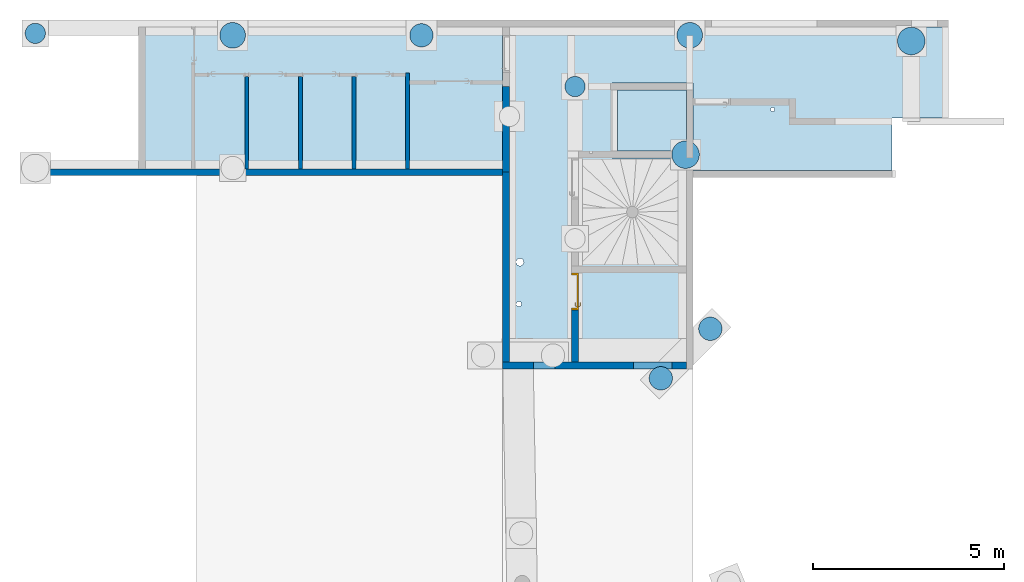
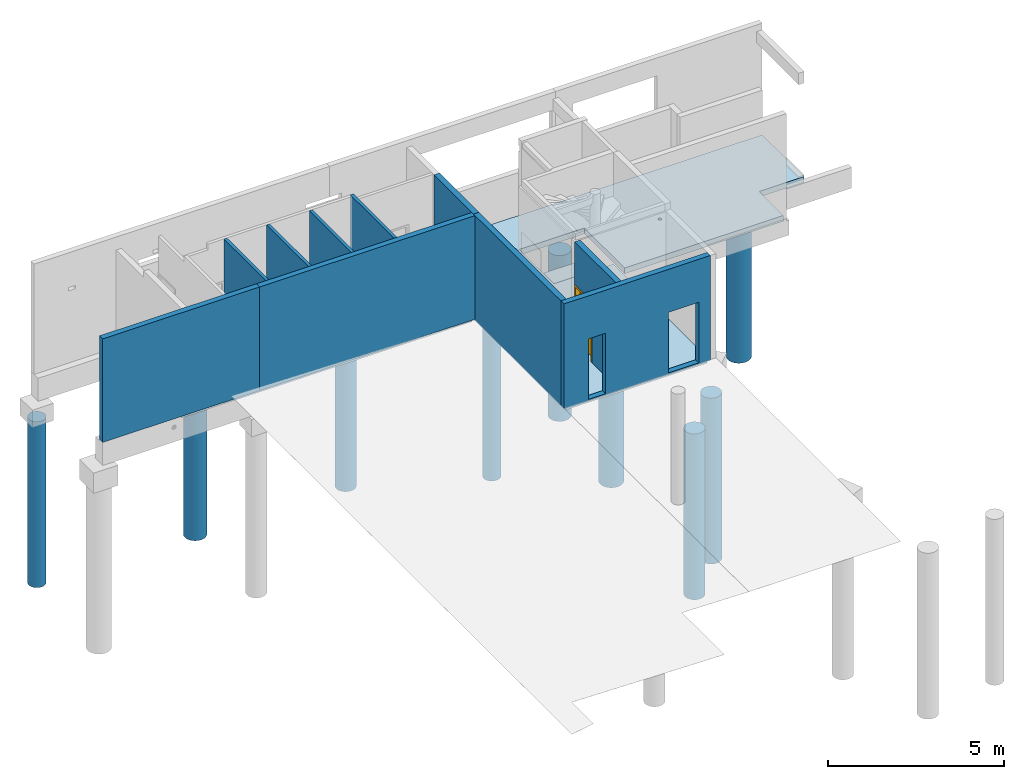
# One storey, part 2 of 14: 12 slabs, 10 walls, 1 door, 6 openings.
"""IFC2X3 building model written with IfcOpenShell, lengths in centimetres."""

from ifc_helpers import new_model, entity, si_unit, converted_unit, derived_unit, direction, frame, frame_2d, origin, origin_2d_with_axis, place, context, subcontext, project, spatial, polyline, rectangle, circle, outline, extrude, faceted_brep, source, transform, mapped, material, material_list, layer, layer_set, layer_usage, type_object, type_shapes, element, fill, save


model = new_model("IFC2X3")

# Units and contexts
model_context = context("Model", 3, precision=0.001, world=origin(), true_north=direction((6.12303176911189e-17, 1.0)))
body_context = subcontext(model_context, "Body", "Model", "MODEL_VIEW")
ifc_project = project(units=[si_unit("LENGTHUNIT", "METRE", prefix="CENTI"), si_unit("AREAUNIT", "SQUARE_METRE"), si_unit("VOLUMEUNIT", "CUBIC_METRE"), converted_unit("PLANEANGLEUNIT", "DEGREE", entity("IfcRatioMeasure", 0.0174532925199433), si_unit("PLANEANGLEUNIT", "RADIAN"), dimensions=[0, 0, 0, 0, 0, 0, 0]), si_unit("MASSUNIT", "GRAM", prefix="KILO"), derived_unit("MASSDENSITYUNIT", [(si_unit("MASSUNIT", "GRAM", prefix="KILO"), 1), (si_unit("LENGTHUNIT", "METRE"), -3)]), si_unit("TIMEUNIT", "SECOND"), si_unit("FREQUENCYUNIT", "HERTZ"), si_unit("THERMODYNAMICTEMPERATUREUNIT", "DEGREE_CELSIUS"), derived_unit("THERMALTRANSMITTANCEUNIT", [(si_unit("MASSUNIT", "GRAM", prefix="KILO"), 1), (si_unit("THERMODYNAMICTEMPERATUREUNIT", "KELVIN"), -1), (si_unit("TIMEUNIT", "SECOND"), -3)]), derived_unit("VOLUMETRICFLOWRATEUNIT", [(si_unit("LENGTHUNIT", "METRE"), 3), (si_unit("TIMEUNIT", "SECOND"), -1)]), si_unit("ELECTRICCURRENTUNIT", "AMPERE"), si_unit("ELECTRICVOLTAGEUNIT", "VOLT"), si_unit("POWERUNIT", "WATT"), si_unit("FORCEUNIT", "NEWTON"), si_unit("ILLUMINANCEUNIT", "LUX"), si_unit("LUMINOUSFLUXUNIT", "LUMEN"), si_unit("LUMINOUSINTENSITYUNIT", "CANDELA"), derived_unit("USERDEFINED", [(si_unit("MASSUNIT", "GRAM", prefix="KILO"), -1), (si_unit("LENGTHUNIT", "METRE"), -2), (si_unit("TIMEUNIT", "SECOND"), 3), (si_unit("LUMINOUSFLUXUNIT", "LUMEN"), 1)]), derived_unit("LINEARVELOCITYUNIT", [(si_unit("LENGTHUNIT", "METRE"), 1), (si_unit("TIMEUNIT", "SECOND"), -1)]), si_unit("PRESSUREUNIT", "PASCAL"), derived_unit("USERDEFINED", [(si_unit("LENGTHUNIT", "METRE"), -2), (si_unit("MASSUNIT", "GRAM", prefix="KILO"), 1), (si_unit("TIMEUNIT", "SECOND"), -2)])], contexts=[model_context])

# Site, building, storey
site_placement = place(None, origin())
site = spatial("IfcSite", under=ifc_project, at=site_placement, Name="Default", CompositionType="ELEMENT")
building_placement = place(site_placement, origin())
building = spatial("IfcBuilding", under=site, at=building_placement, Name="CAGE 03", CompositionType="ELEMENT")
storey_placement = place(building_placement, frame((0.0, 0.0, -42.0)))
storey = spatial("IfcBuildingStorey", under=building, at=storey_placement, Name="+3.58", CompositionType="ELEMENT", Elevation=-42.0000000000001)

# Slabs
ifc_material_1 = material(Name="Béton, C25/30")
ifc_layer_1 = layer(ifc_material_1, 20.0)
ifc_layer_set_1 = layer_set([ifc_layer_1], Name="Sol:Dalle Béton - 20 cm")
ifc_layer_usage_1 = layer_usage(ifc_layer_set_1, "AXIS3", "POSITIVE", 0.0)
slab_1_placement = place(storey_placement, origin())
element("IfcSlab", 1, at=slab_1_placement, inside=storey, material=ifc_layer_usage_1, Name="Sol:Dalle Béton - 20 cm", ObjectType="Sol:Dalle Béton - 20 cm", PredefinedType="FLOOR", context=body_context, shape_type="SweptSolid", body=[
    extrude(rectangle(XDim=371.000000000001, YDim=952.000000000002, at=origin_2d_with_axis()), frame((9534.36582014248, 5090.16066607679, 0.0), z_axis=(0.0, 0.0, -1.0), x_axis=(0.0, 1.0, 0.0)), (0.0, 0.0, 1.0), 20.0),
])
ifc_material_2 = material(Name="B25")
slab_2_placement = place(storey_placement, origin())
element("IfcSlab", 2, at=slab_2_placement, inside=storey, material=ifc_material_2, Name="Pieux:Ø46/67", ObjectType="Pieux:Ø46/67", PredefinedType="BASESLAB", context=body_context, shape_type="SweptSolid", body=[
    extrude(circle(Radius=33.5, at=origin_2d_with_axis()), frame((9304.36582014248, 5253.66066607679, -720.0)), (0.0, 0.0, 1.0), 575.0),
])
slab_3_placement = place(storey_placement, origin())
element("IfcSlab", 3, at=slab_3_placement, inside=storey, material=ifc_material_2, Name="Pieux:Ø41/61", ObjectType="Pieux:Ø41/61", PredefinedType="BASESLAB", context=body_context, shape_type="SweptSolid", body=[
    extrude(circle(Radius=30.5, at=origin_2d_with_axis()), frame((9797.86582014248, 5253.66066607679, -725.0)), (0.0, 0.0, 1.0), 575.0),
])
slab_4_placement = place(storey_placement, origin())
element("IfcSlab", 4, at=slab_4_placement, inside=storey, material=ifc_material_2, Name="Pieux:Ø46/67", ObjectType="Pieux:Ø46/67", PredefinedType="BASESLAB", context=body_context, shape_type="SweptSolid", body=[
    extrude(circle(Radius=33.5, at=origin_2d_with_axis()), frame((10499.3658201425, 5253.66066607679, -725.0)), (0.0, 0.0, 1.0), 575.0),
])
slab_5_placement = place(storey_placement, origin())
element("IfcSlab", 5, at=slab_5_placement, inside=storey, material=ifc_material_2, Name="Pieux:Ø51/72", ObjectType="Pieux:Ø51/72", PredefinedType="BASESLAB", context=body_context, shape_type="SweptSolid", body=[
    extrude(circle(Radius=36.0, at=origin_2d_with_axis()), frame((11078.3658201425, 5238.66066607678, -715.0)), (0.0, 0.0, 1.0), 575.0),
])
slab_6_placement = place(storey_placement, origin())
element("IfcSlab", 6, at=slab_6_placement, inside=storey, material=ifc_material_2, Name="Pieux:Ø36/53", ObjectType="Pieux:Ø36/53", PredefinedType="BASESLAB", context=body_context, shape_type="SweptSolid", body=[
    extrude(circle(Radius=26.5, at=origin_2d_with_axis()), frame((10199.3658201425, 5119.66066607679, -750.0)), (0.0, 0.0, 1.0), 575.0),
])
slab_7_placement = place(storey_placement, origin())
element("IfcSlab", 7, at=slab_7_placement, inside=storey, material=ifc_material_2, Name="Pieux:Ø51/72", ObjectType="Pieux:Ø51/72", PredefinedType="BASESLAB", context=body_context, shape_type="SweptSolid", body=[
    extrude(circle(Radius=36.0, at=origin_2d_with_axis()), frame((10488.3658201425, 4941.66066607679, -760.0)), (0.0, 0.0, 1.0), 575.0),
])
slab_8_placement = place(storey_placement, origin())
element("IfcSlab", 8, at=slab_8_placement, inside=storey, material=ifc_material_2, Name="Pieux:Ø41/61", ObjectType="Pieux:Ø41/61", PredefinedType="BASESLAB", context=body_context, shape_type="SweptSolid", body=[
    extrude(circle(Radius=30.5, at=origin_2d_with_axis()), frame((10423.6655496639, 4356.96039559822, -775.0)), (0.0, 0.0, 1.0), 575.0),
])
ifc_layer_usage_2 = layer_usage(ifc_layer_set_1, "AXIS3", "POSITIVE", 0.0)
slab_9_placement = place(storey_placement, origin())
element("IfcSlab", 9, at=slab_9_placement, inside=storey, material=ifc_layer_usage_2, Name="Sol:Dalle Béton - 20 cm", ObjectType="Sol:Dalle Béton - 20 cm", PredefinedType="FLOOR", context=body_context, shape_type="SweptSolid", body=[
    extrude(rectangle(XDim=160.000000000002, YDim=180.000000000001, at=origin_2d_with_axis()), frame((10400.3658201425, 5030.66066607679, -100.0), z_axis=(0.0, 0.0, -1.0), x_axis=(0.0, 1.0, 0.0)), (0.0, 0.0, 1.0), 20.0),
])
slab_10_placement = place(storey_placement, origin())
element("IfcSlab", 10, at=slab_10_placement, inside=storey, material=ifc_material_2, Name="Pieux:Ø36/53", ObjectType="Pieux:Ø36/53", PredefinedType="BASESLAB", context=body_context, shape_type="SweptSolid", body=[
    extrude(circle(Radius=26.5, at=origin_2d_with_axis()), frame((8788.36582014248, 5258.6606660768, -710.0)), (0.0, 0.0, 1.0), 575.0),
])
slab_11_placement = place(storey_placement, origin())
element("IfcSlab", 11, at=slab_11_placement, inside=storey, material=ifc_material_2, Name="Pieux:Ø41/61", ObjectType="Pieux:Ø41/61", PredefinedType="BASESLAB", context=body_context, shape_type="SweptSolid", body=[
    extrude(circle(Radius=30.5, at=origin_2d_with_axis()), frame((10553.0660906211, 4486.36093655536, -775.0)), (0.0, 0.0, 1.0), 575.0),
])

# Slab, openings
ifc_layer_usage_3 = layer_usage(ifc_layer_set_1, "AXIS3", "POSITIVE", 0.0)
slab_12_placement = place(storey_placement, frame((10028.3658201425, 4399.66066607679, -25.0)))
slab_12 = element("IfcSlab", 12, at=slab_12_placement, inside=storey, material=ifc_layer_usage_3, Name="Sol:Dalle Béton - 20 cm", ObjectType="Sol:Dalle Béton - 20 cm", PredefinedType="FLOOR", context=body_context, shape_type="SweptSolid", body=[
    extrude(outline(polyline([(-574.0, 438.0), (-574.0, 199.499999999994), (-426.0, 199.499999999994), (-426.0, 62.0), (94.0, 62.0), (94.0, 291.0), (307.0, 291.0), (307.0, 95.0), (112.0, 95.0), (112.0, -438.0), (574.0, -438.0), (574.0, 438.0), (-574.0, 438.0)])), frame((574.0, 438.0, 20.0), z_axis=(0.0, 0.0, -1.0), x_axis=(-1.0, 0.0, 0.0)), (0.0, 0.0, 1.0), 20.0),
])
opening_1_placement = place(slab_12_placement, origin())
element("IfcOpeningElement", 13, at=opening_1_placement, cuts=slab_12, ObjectType="Opening", context=body_context, shape_type="SweptSolid", body=[
    extrude(circle(Radius=7.0, at=origin_2d_with_axis()), frame((24.0, 151.490738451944, 0.0)), (0.0, 0.0, 1.0), 20.0),
])
opening_2_placement = place(slab_12_placement, origin())
element("IfcOpeningElement", 14, at=opening_2_placement, cuts=slab_12, ObjectType="Opening", context=body_context, shape_type="SweptSolid", body=[
    extrude(circle(Radius=10.0, at=origin_2d_with_axis()), frame((27.0, 261.137434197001, 0.0)), (0.0, 0.0, 1.0), 20.0),
])
opening_3_placement = place(slab_12_placement, origin())
element("IfcOpeningElement", 15, at=opening_3_placement, cuts=slab_12, ObjectType="Opening", context=body_context, shape_type="SweptSolid", body=[
    extrude(circle(Radius=5.5, at=origin_2d_with_axis()), frame((687.590072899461, 660.063743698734, 0.0)), (0.0, 0.0, 1.0), 20.0),
])

# Wall, openings
ifc_layer_2 = layer(ifc_material_1, 18.0)
ifc_layer_set_2 = layer_set([ifc_layer_2], Name="Mur de base:Voile BA 18")
ifc_layer_usage_4 = layer_usage(ifc_layer_set_2, "AXIS2", "POSITIVE", -9.0)
wall_type_1 = type_object("IfcWallType", Name="Mur de base:Voile BA 18", PredefinedType="STANDARD", material=ifc_layer_set_2)
wall_1_placement = place(storey_placement, frame((10490.3658201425, 4390.66066607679, -5.0), z_axis=(0.0, 0.0, 1.0), x_axis=(-1.0, 0.0, 0.0)))
wall_1 = element("IfcWallStandardCase", 16, at=wall_1_placement, inside=storey, type_object=wall_type_1, material=ifc_layer_usage_4, Name="Mur de base:Voile BA 18", ObjectType="Mur de base:Voile BA 18", context=body_context, shape_type="SweptSolid", body=[
    extrude(rectangle(XDim=480.000000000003, YDim=17.9999999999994, at=frame_2d((240.000000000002, -1.21680443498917e-13), x_axis=(-1.0, 0.0))), origin(), (0.0, 0.0, 1.0), 364.0),
])
opening_4_placement = place(wall_1_placement, frame((10490.3658201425, 4390.66066607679, 0.0), z_axis=(0.0, 0.0, 1.0), x_axis=(-1.0, 0.0, 0.0)))
element("IfcOpeningElement", 17, at=opening_4_placement, cuts=wall_1, Name="Mur de base:Voile BA 18", ObjectType="Opening", context=body_context, shape_type="SweptSolid", body=[
    extrude(rectangle(XDim=210.0, YDim=99.9999999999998, at=frame_2d((-8.66862137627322e-13, 0.0), x_axis=(0.0, 1.0))), frame((10402.3658201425, 4534.06066607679, 110.0), z_axis=(0.0, -1.0, 0.0), x_axis=(1.0, 0.0, 0.0)), (0.0, 0.0, 1.0), 304.8),
])
opening_5_placement = place(wall_1_placement, frame((10490.3658201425, 4390.66066607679, 0.0), z_axis=(0.0, 0.0, 1.0), x_axis=(-1.0, 0.0, 0.0)))
element("IfcOpeningElement", 18, at=opening_5_placement, cuts=wall_1, Name="Mur de base:Voile BA 18", ObjectType="Opening", context=body_context, shape_type="SweptSolid", body=[
    extrude(rectangle(XDim=210.0, YDim=55.9999999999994, at=frame_2d((8.65085780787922e-13, 1.4210854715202e-14), x_axis=(0.0, 1.0))), frame((10118.3658201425, 4534.06066607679, 110.0), z_axis=(0.0, -1.0, 0.0), x_axis=(1.0, 0.0, 0.0)), (0.0, 0.0, 1.0), 304.8),
])

# Walls
ifc_layer_usage_5 = layer_usage(ifc_layer_set_2, "AXIS2", "POSITIVE", -9.0)
wall_2_placement = place(storey_placement, frame((10019.3658201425, 4399.66066607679, -5.0), z_axis=(0.0, 0.0, 1.0), x_axis=(0.0, 1.0, 0.0)))
element("IfcWallStandardCase", 19, at=wall_2_placement, inside=storey, type_object=wall_type_1, material=ifc_layer_usage_5, Name="Mur de base:Voile BA 18", ObjectType="Mur de base:Voile BA 18", context=body_context, shape_type="SweptSolid", body=[
    extrude(rectangle(XDim=495.999999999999, YDim=17.9999999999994, at=frame_2d((247.999999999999, -3.44613226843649e-13), x_axis=(-1.0, 0.0))), origin(), (0.0, 0.0, 1.0), 364.0),
])
ifc_layer_usage_6 = layer_usage(ifc_layer_set_2, "AXIS2", "NEGATIVE", 9.0)
wall_3_placement = place(storey_placement, frame((8789.36582014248, 4895.66066607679, 0.0)))
element("IfcWallStandardCase", 20, at=wall_3_placement, inside=storey, type_object=wall_type_1, material=ifc_layer_usage_6, Name="Mur de base:Voile BA 18", ObjectType="Mur de base:Voile BA 18", context=body_context, shape_type="SweptSolid", body=[
    extrude(rectangle(XDim=515.000000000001, YDim=17.9999999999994, at=frame_2d((257.5, -7.99360577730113e-14), x_axis=(-1.0, 0.0))), origin(), (0.0, 0.0, 1.0), 359.0),
])

# Wall, opening, door
ifc_layer_usage_7 = layer_usage(ifc_layer_set_2, "AXIS2", "POSITIVE", -9.0)
wall_4_placement = place(storey_placement, frame((10199.3658201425, 4632.66066607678, 0.0), z_axis=(0.0, 0.0, 1.0), x_axis=(0.0, -1.0, 0.0)))
wall_4 = element("IfcWallStandardCase", 21, at=wall_4_placement, inside=storey, type_object=wall_type_1, material=ifc_layer_usage_7, Name="Mur de base:Voile BA 18", ObjectType="Mur de base:Voile BA 18", context=body_context, shape_type="SweptSolid", body=[
    extrude(rectangle(XDim=232.999999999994, YDim=17.9999999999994, at=frame_2d((116.499999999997, -1.77635683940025e-13), x_axis=(-1.0, 0.0))), origin(), (0.0, 0.0, 1.0), 359.0),
])
opening_6_placement = place(wall_4_placement, frame((0.0, -9.0, 0.0)))
opening_6 = element("IfcOpeningElement", 22, at=opening_6_placement, cuts=wall_4, Name="Int. Simple:HB93:1", ObjectType="Opening", context=body_context, shape_type="SweptSolid", body=[
    extrude(rectangle(XDim=210.000000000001, YDim=96.9999999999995, at=frame_2d((105.000000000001, 48.4999999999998), x_axis=(1.0, 0.0))), frame((0.0, 0.0, 0.0), z_axis=(0.0, 1.0, 0.0), x_axis=(0.0, 0.0, 1.0)), (0.0, 0.0, 1.0), 18.0),
])
ifc_material_3 = material(Name="Finition Peinture - Blanc satiné")
ifc_material_4 = material(Name="Bois - Panneau de porte")
ifc_material_5 = material(Name="Bois - Cadre de porte")
ifc_material_list_1 = material_list([ifc_material_3, ifc_material_4, ifc_material_5])
ifc_material_list_2 = material_list([ifc_material_3, ifc_material_4, ifc_material_5])
door_style = type_object("IfcDoorStyle", Name="HB93", ConstructionType="NOTDEFINED", OperationType="SINGLE_SWING_LEFT", ParameterTakesPrecedence=False, Sizeable=False, material=ifc_material_list_2)
shared_shape = source(origin(), body_context, "Body", "Brep", [
    faceted_brep([(10.5352761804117, -0.500000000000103, 86.6003983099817), (11.5000000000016, -0.500000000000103, 87.0), (11.5000000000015, -0.500000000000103, 108.0), (10.5352761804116, -0.500000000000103, 108.399601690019), (9.50000000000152, -0.500000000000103, 108.535898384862), (8.46472381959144, -0.500000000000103, 108.399601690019), (7.50000000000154, -0.500000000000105, 108.0), (7.50000000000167, -0.500000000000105, 87.0), (8.46472381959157, -0.500000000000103, 86.6003983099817), (9.50000000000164, -0.500000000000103, 86.464101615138), (10.5352761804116, 0.0, 108.399601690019), (11.5000000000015, 0.0, 108.0), (11.5000000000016, 0.0, 87.0), (10.5352761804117, 0.0, 86.6003983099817), (9.50000000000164, 0.0, 86.464101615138), (8.46472381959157, 0.0, 86.6003983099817), (7.50000000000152, 0.0, 87.0), (7.50000000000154, 0.0, 108.0), (8.46472381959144, 0.0, 108.399601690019), (9.50000000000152, 0.0, 108.535898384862)], [[[0, 1, 2, 3, 4, 5, 6, 7, 8, 9]], [[10, 11, 12, 13, 14, 15, 16, 17, 18, 19]], [[16, 15, 8, 7]], [[8, 15, 14, 9]], [[14, 13, 0, 9]], [[13, 12, 1, 0]], [[2, 1, 12, 11]], [[11, 10, 3, 2]], [[3, 10, 19, 4]], [[19, 18, 5, 4]], [[18, 17, 6, 5]], [[7, 6, 17, 16]]]),
    faceted_brep([(10.5352761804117, 4.0, 86.6003983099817), (11.5000000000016, 4.0, 87.0), (11.5000000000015, 4.0, 108.0), (10.5352761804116, 4.0, 108.399601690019), (9.50000000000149, 4.0, 108.535898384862), (8.46472381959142, 4.0, 108.399601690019), (7.50000000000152, 4.0, 108.0), (7.50000000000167, 4.0, 87.0), (8.46472381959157, 4.0, 86.6003983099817), (9.50000000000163, 4.0, 86.464101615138), (10.5352761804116, 4.49999999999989, 108.399601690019), (11.5000000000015, 4.4999999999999, 108.0), (11.5000000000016, 4.4999999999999, 87.0), (10.5352761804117, 4.49999999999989, 86.6003983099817), (9.50000000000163, 4.49999999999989, 86.464101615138), (8.46472381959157, 4.49999999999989, 86.6003983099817), (7.50000000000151, 4.49999999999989, 87.0), (7.50000000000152, 4.49999999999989, 108.0), (8.46472381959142, 4.49999999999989, 108.399601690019), (9.50000000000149, 4.49999999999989, 108.535898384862)], [[[0, 1, 2, 3, 4, 5, 6, 7, 8, 9]], [[10, 11, 12, 13, 14, 15, 16, 17, 18, 19]], [[11, 10, 3, 2]], [[3, 10, 19, 4]], [[19, 18, 5, 4]], [[18, 17, 6, 5]], [[7, 6, 17, 16]], [[16, 15, 8, 7]], [[8, 15, 14, 9]], [[14, 13, 0, 9]], [[13, 12, 1, 0]], [[2, 1, 12, 11]]]),
    faceted_brep([(9.29747013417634, -0.500000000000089, 100.778044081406), (9.70252986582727, -0.500000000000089, 100.778044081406), (10.1000000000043, -0.500000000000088, 100.699999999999), (10.1000000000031, -0.500000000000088, 99.3000000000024), (9.70252986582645, -0.500000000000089, 99.2219559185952), (9.29747013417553, -0.500000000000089, 99.221955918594), (8.89999999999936, -0.500000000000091, 99.2999999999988), (8.89999999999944, -0.500000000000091, 100.7), (8.89999999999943, -3.26509507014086, 100.7), (9.29747013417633, -3.10045754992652, 100.778044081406), (10.9023585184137, -4.70534593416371, 100.778044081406), (11.0701397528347, -4.30028620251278, 100.778044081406), (9.70252986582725, -2.93267631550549, 100.778044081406), (10.1000000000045, -2.76803879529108, 100.7), (10.1000000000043, -2.76803879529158, 99.3000000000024), (9.70252986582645, -2.93267631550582, 99.2219559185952), (11.0701397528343, -4.30028620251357, 99.2219559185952), (10.9023585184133, -4.70534593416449, 99.221955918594), (9.29747013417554, -3.10045754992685, 99.221955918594), (8.89999999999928, -3.26509507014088, 99.2999999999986), (10.7377209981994, -5.1028160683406, 100.7), (11.2347772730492, -3.90281606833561, 100.7), (11.2347772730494, -3.90281606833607, 99.3000000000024), (10.7377209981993, -5.10281606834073, 99.2999999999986), (19.5018640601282, -5.1028160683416, 99.2999999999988), (19.5018640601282, -4.70534593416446, 99.221955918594), (19.5018640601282, -4.30028620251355, 99.2219559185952), (19.5018640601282, -3.90281606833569, 99.3000000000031), (19.5018640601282, -3.90281606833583, 100.7), (19.5018640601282, -4.30028620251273, 100.778044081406), (19.5018640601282, -4.70534593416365, 100.778044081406), (19.5018640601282, -5.10281606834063, 100.699999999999), (14.7307697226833, -5.10281606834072, 100.7), (15.28600190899, -4.5028160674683, 100.78786867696), (15.3683206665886, -3.9028160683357, 100.7), (15.3683206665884, -3.90281606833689, 99.3000000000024), (15.2860018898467, -4.50281607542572, 99.2121313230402), (14.7307700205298, -5.10281606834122, 99.2999999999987)], [[[0, 1, 2, 3, 4, 5, 6, 7]], [[8, 9, 0, 7]], [[9, 10, 11, 12, 1, 0]], [[12, 13, 2, 1]], [[3, 2, 13, 14]], [[14, 15, 4, 3]], [[15, 16, 17, 18, 5, 4]], [[18, 19, 6, 5]], [[7, 6, 19, 8]], [[20, 10, 9, 8]], [[11, 21, 13, 12]], [[14, 13, 21, 22]], [[22, 16, 15, 14]], [[17, 23, 19, 18]], [[8, 19, 23, 20]], [[24, 25, 26, 27, 28, 29, 30, 31]], [[32, 30, 33]], [[31, 30, 32]], [[10, 20, 32]], [[33, 34, 11]], [[21, 11, 34]], [[34, 29, 28]], [[30, 29, 33]], [[29, 34, 33]], [[10, 32, 33]], [[10, 33, 11]], [[22, 21, 34, 28, 27, 35]], [[35, 26, 36]], [[37, 36, 25]], [[22, 35, 16]], [[35, 27, 26]], [[24, 37, 25]], [[23, 17, 37]], [[37, 17, 36]], [[17, 16, 36]], [[16, 35, 36]], [[25, 36, 26]], [[20, 23, 37, 24, 31, 32]]]),
    faceted_brep([(9.29747013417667, 4.49999999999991, 100.778044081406), (8.89999999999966, 4.49999999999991, 100.7), (8.89999999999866, 4.49999999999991, 99.2999999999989), (9.2974701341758, 4.49999999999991, 99.221955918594), (9.70252986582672, 4.49999999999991, 99.2219559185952), (10.1000000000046, 4.49999999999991, 99.3000000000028), (10.1000000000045, 4.49999999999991, 100.7), (9.70252986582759, 4.49999999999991, 100.778044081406), (10.1000000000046, 6.7485204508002, 99.3000000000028), (10.1000000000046, 6.74852045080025, 100.7), (9.70252986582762, 6.91315797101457, 100.778044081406), (11.0838906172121, 8.29451872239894, 100.778044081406), (10.9161093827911, 8.69957845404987, 100.778044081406), (9.29747013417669, 7.0809392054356, 100.778044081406), (8.89999999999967, 7.24557672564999, 100.7), (8.89999999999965, 7.24557672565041, 99.2999999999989), (9.29747013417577, 7.08093920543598, 99.221955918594), (10.9161093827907, 8.69957845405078, 99.221955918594), (11.0838906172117, 8.29451872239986, 99.2219559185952), (9.7025298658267, 6.91315797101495, 99.2219559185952), (11.2485281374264, 7.89704858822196, 99.3000000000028), (11.2485281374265, 7.89704858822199, 100.7), (10.7514718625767, 9.0970485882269, 100.7), (10.751471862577, 9.0970485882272, 99.2999999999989), (19.504578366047, 7.89704858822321, 99.3000000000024), (19.504578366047, 8.29451872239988, 99.2219559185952), (19.504578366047, 8.6995784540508, 99.221955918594), (19.504578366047, 9.09704858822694, 99.2999999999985), (19.504578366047, 9.09704858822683, 100.7), (19.504578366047, 8.69957845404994, 100.778044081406), (19.504578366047, 8.29451872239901, 100.778044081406), (19.504578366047, 7.89704858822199, 100.7), (15.3765520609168, 7.89704858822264, 99.3000000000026), (15.3765532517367, 7.89704858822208, 100.7), (15.294234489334, 8.49704858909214, 100.78786867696), (14.7445205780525, 9.09704858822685, 100.7), (14.7445204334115, 9.09704858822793, 99.2999999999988), (15.2942345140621, 8.49704858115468, 99.2121313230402)], [[[0, 1, 2, 3, 4, 5, 6, 7]], [[6, 5, 8, 9]], [[9, 10, 7, 6]], [[10, 11, 12, 13, 0, 7]], [[13, 14, 1, 0]], [[2, 1, 14, 15]], [[15, 16, 3, 2]], [[16, 17, 18, 19, 4, 3]], [[19, 8, 5, 4]], [[9, 8, 20, 21]], [[21, 11, 10, 9]], [[12, 22, 14, 13]], [[15, 14, 22, 23]], [[23, 17, 16, 15]], [[18, 20, 8, 19]], [[24, 25, 26, 27, 28, 29, 30, 31]], [[21, 20, 32, 24, 31, 33]], [[33, 30, 34]], [[35, 34, 29]], [[21, 33, 11]], [[33, 31, 30]], [[28, 35, 29]], [[22, 12, 35]], [[35, 12, 34]], [[12, 11, 34]], [[11, 33, 34]], [[29, 34, 30]], [[22, 35, 28, 27, 36, 23]], [[36, 26, 37]], [[27, 26, 36]], [[17, 23, 36]], [[37, 32, 18]], [[20, 18, 32]], [[32, 25, 24]], [[26, 25, 37]], [[25, 32, 37]], [[17, 36, 37]], [[17, 37, 18]]]),
    faceted_brep([(3.50000000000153, 4.0, 206.5), (93.5000000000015, 4.0, 206.5), (93.5000000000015, 4.0, 0.0), (3.50000000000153, 4.0, 0.0), (3.50000000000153, 0.0, 206.5), (3.50000000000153, 0.0, 0.0), (93.5000000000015, 0.0, 0.0), (93.5000000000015, 0.0, 206.5)], [[[0, 1, 2, 3]], [[4, 5, 6, 7]], [[1, 0, 4, 7]], [[2, 1, 7, 6]], [[3, 2, 6, 5]], [[0, 3, 5, 4]]]),
    faceted_brep([(0.0, 0.0, 0.0), (0.0, 18.0, 0.0), (5.0, 18.0, 0.0), (5.0, 4.0, 0.0), (3.50000000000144, 4.0, 0.0), (3.50000000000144, 0.0, 0.0), (0.0, 0.0, 210.0), (0.0, 18.0, 210.0), (97.0, 18.0, 210.0), (97.0, 18.0, 0.0), (92.0, 18.0, 0.0), (92.0, 18.0, 205.0), (5.0, 18.0, 205.0), (5.0, 4.0, 205.0), (92.0, 4.0, 205.0), (92.0, 4.0, 0.0), (93.4999999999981, 4.0, 0.0), (93.4999999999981, 4.0, 206.5), (3.50000000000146, 4.0, 206.5), (3.50000000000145, 0.0, 206.5), (93.4999999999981, 0.0, 206.5), (93.4999999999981, 0.0, 0.0), (97.0, 0.0, 0.0), (97.0, 0.0, 210.0)], [[[0, 1, 2, 3, 4, 5]], [[1, 0, 6, 7]], [[2, 1, 7, 8, 9, 10, 11, 12]], [[3, 2, 12, 13]], [[4, 3, 13, 14, 15, 16, 17, 18]], [[5, 4, 18, 19]], [[0, 5, 19, 20, 21, 22, 23, 6]], [[8, 23, 22, 9]], [[22, 21, 16, 15, 10, 9]], [[14, 11, 10, 15]], [[20, 17, 16, 21]], [[7, 6, 23, 8]], [[13, 12, 11, 14]], [[19, 18, 17, 20]]]),
    faceted_brep([(1.5, 18.0, 0.0), (-1.49999999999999, 18.0, 0.0), (-1.49999999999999, 18.5000000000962, 0.0), (1.5, 18.5000000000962, 0.0), (1.5, 18.0, 208.500000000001), (95.4999999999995, 18.0, 208.500000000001), (95.4999999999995, 18.0, 0.0), (98.4999999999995, 18.0, 0.0), (98.4999999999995, 18.0, 211.500000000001), (-1.49999999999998, 18.0, 211.500000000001), (-1.49999999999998, 18.5000000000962, 211.500000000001), (98.4999999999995, 18.5000000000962, 211.500000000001), (98.4999999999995, 18.5000000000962, 0.0), (95.4999999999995, 18.5000000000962, 0.0), (95.4999999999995, 18.5000000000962, 208.500000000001), (1.50000000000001, 18.5000000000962, 208.500000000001)], [[[0, 1, 2, 3]], [[1, 0, 4, 5, 6, 7, 8, 9]], [[2, 1, 9, 10]], [[3, 2, 10, 11, 12, 13, 14, 15]], [[0, 3, 15, 4]], [[6, 13, 12, 7]], [[5, 14, 13, 6]], [[11, 8, 7, 12]], [[10, 9, 8, 11]], [[4, 15, 14, 5]]]),
    faceted_brep([(-1.49999999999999, -0.5, 0.0), (1.5, -0.5, 0.0), (1.5, -0.5, 208.500000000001), (95.4999999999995, -0.5, 208.500000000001), (95.4999999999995, -0.5, 0.0), (98.4999999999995, -0.5, 0.0), (98.4999999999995, -0.5, 211.500000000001), (-1.49999999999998, -0.5, 211.500000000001), (-1.49999999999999, 0.0, 0.0), (-1.49999999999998, 0.0, 211.500000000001), (1.5, 0.0, 0.0), (98.4999999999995, 0.0, 211.500000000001), (98.4999999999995, 0.0, 0.0), (95.4999999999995, 0.0, 0.0), (95.4999999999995, 0.0, 208.500000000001), (1.50000000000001, 0.0, 208.500000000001)], [[[0, 1, 2, 3, 4, 5, 6, 7]], [[8, 0, 7, 9]], [[10, 8, 9, 11, 12, 13, 14, 15]], [[1, 10, 15, 2]], [[3, 14, 13, 4]], [[11, 6, 5, 12]], [[9, 7, 6, 11]], [[2, 15, 14, 3]], [[4, 13, 12, 5]], [[1, 0, 8, 10]]]),
])
type_shapes(door_style, [shared_shape])
door_placement = place(opening_6_placement, frame((97.0, 18.0, 0.0), z_axis=(0.0, 0.0, 1.0), x_axis=(-1.0, 0.0, 0.0)))
door = element("IfcDoor", 23, at=door_placement, inside=storey, type_object=door_style, material=ifc_material_list_1, Name="Int. Simple:HB93", ObjectType="HB93", OverallHeight=210.000000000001, OverallWidth=96.9999999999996, context=body_context, shape_type="MappedRepresentation", body=[
    mapped(shared_shape, transform((0.0, 0.0, 0.0), scale=1.0)),
])
fill(opening_6, door)

# Walls
ifc_layer_usage_8 = layer_usage(ifc_layer_set_2, "AXIS2", "POSITIVE", -9.0)
wall_5_placement = place(storey_placement, frame((10019.3658201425, 4886.66066607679, -5.0), z_axis=(0.0, 0.0, 1.0), x_axis=(0.0, 1.0, 0.0)))
element("IfcWallStandardCase", 24, at=wall_5_placement, inside=storey, type_object=wall_type_1, material=ifc_layer_usage_8, Name="Mur de base:Voile BA 18", ObjectType="Mur de base:Voile BA 18", context=body_context, shape_type="SweptSolid", body=[
    extrude(rectangle(XDim=224.0, YDim=17.9999999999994, at=frame_2d((121.000000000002, 2.54019028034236e-13), x_axis=(-1.0, 0.0))), origin(), (0.0, 0.0, 1.0), 364.0),
])
ifc_layer_usage_9 = layer_usage(ifc_layer_set_2, "AXIS2", "NEGATIVE", 9.0)
wall_6_placement = place(storey_placement, frame((9304.36582014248, 4895.66066607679, 0.0)))
element("IfcWallStandardCase", 25, at=wall_6_placement, inside=storey, type_object=wall_type_1, material=ifc_layer_usage_9, Name="Mur de base:Voile BA 18", ObjectType="Mur de base:Voile BA 18", context=body_context, shape_type="SweptSolid", body=[
    extrude(rectangle(XDim=706.000000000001, YDim=17.9999999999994, at=frame_2d((353.0, 2.1227464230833e-13), x_axis=(-1.0, 0.0))), origin(), (0.0, 0.0, 1.0), 359.0),
])
ifc_material_6 = material(Name="Bloc béton")
ifc_layer_3 = layer(ifc_material_6, 10.0)
ifc_layer_set_3 = layer_set([ifc_layer_3], Name="Mur de base:Int. Parpaing 100 mm")
ifc_layer_usage_10 = layer_usage(ifc_layer_set_3, "AXIS2", "NEGATIVE", 5.0)
wall_type_2 = type_object("IfcWallType", Name="Mur de base:Int. Parpaing 100 mm", PredefinedType="STANDARD", material=ifc_layer_set_3)
wall_7_placement = place(storey_placement, frame((9341.36582014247, 5145.66066607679, 0.0), z_axis=(0.0, 0.0, 1.0), x_axis=(0.0, -1.0, 0.0)))
element("IfcWallStandardCase", 26, at=wall_7_placement, inside=storey, type_object=wall_type_2, material=ifc_layer_usage_10, Name="Mur de base:Int. Parpaing 100 mm", ObjectType="Mur de base:Int. Parpaing 100 mm", context=body_context, shape_type="SweptSolid", body=[
    extrude(rectangle(XDim=241.000000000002, YDim=10.0000000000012, at=frame_2d((120.500000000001, 0.0), x_axis=(-1.0, 0.0))), origin(), (0.0, 0.0, 1.0), 357.0),
])
ifc_layer_usage_11 = layer_usage(ifc_layer_set_3, "AXIS2", "NEGATIVE", 5.0)
wall_8_placement = place(storey_placement, frame((9481.36582014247, 5145.66066607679, 0.0), z_axis=(0.0, 0.0, 1.0), x_axis=(0.0, -1.0, 0.0)))
element("IfcWallStandardCase", 27, at=wall_8_placement, inside=storey, type_object=wall_type_2, material=ifc_layer_usage_11, Name="Mur de base:Int. Parpaing 100 mm", ObjectType="Mur de base:Int. Parpaing 100 mm", context=body_context, shape_type="SweptSolid", body=[
    extrude(rectangle(XDim=241.000000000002, YDim=10.0000000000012, at=frame_2d((120.500000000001, 0.0), x_axis=(-1.0, 0.0))), origin(), (0.0, 0.0, 1.0), 357.0),
])
ifc_layer_usage_12 = layer_usage(ifc_layer_set_3, "AXIS2", "NEGATIVE", 5.0)
wall_9_placement = place(storey_placement, frame((9621.36582014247, 5145.66066607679, 0.0), z_axis=(0.0, 0.0, 1.0), x_axis=(0.0, -1.0, 0.0)))
element("IfcWallStandardCase", 28, at=wall_9_placement, inside=storey, type_object=wall_type_2, material=ifc_layer_usage_12, Name="Mur de base:Int. Parpaing 100 mm", ObjectType="Mur de base:Int. Parpaing 100 mm", context=body_context, shape_type="SweptSolid", body=[
    extrude(rectangle(XDim=241.000000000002, YDim=10.0000000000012, at=frame_2d((120.500000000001, 0.0), x_axis=(-1.0, 0.0))), origin(), (0.0, 0.0, 1.0), 357.0),
])
ifc_layer_usage_13 = layer_usage(ifc_layer_set_3, "AXIS2", "NEGATIVE", 5.0)
wall_10_placement = place(storey_placement, frame((9761.36582014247, 5155.66066607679, 0.0), z_axis=(0.0, 0.0, 1.0), x_axis=(0.0, -1.0, 0.0)))
element("IfcWallStandardCase", 29, at=wall_10_placement, inside=storey, type_object=wall_type_2, material=ifc_layer_usage_13, Name="Mur de base:Int. Parpaing 100 mm", ObjectType="Mur de base:Int. Parpaing 100 mm", context=body_context, shape_type="SweptSolid", body=[
    extrude(rectangle(XDim=251.000000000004, YDim=10.0000000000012, at=frame_2d((125.500000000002, 0.0), x_axis=(-1.0, 0.0))), origin(), (0.0, 0.0, 1.0), 357.0),
])

save(model, "model.ifc")
